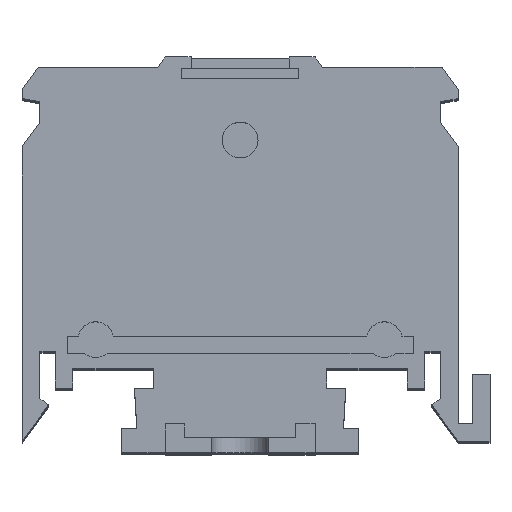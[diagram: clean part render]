
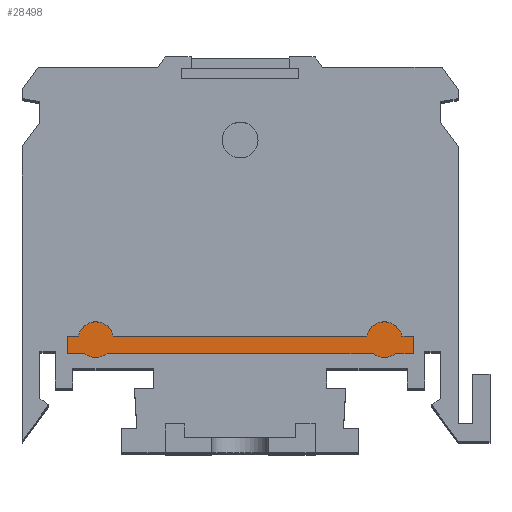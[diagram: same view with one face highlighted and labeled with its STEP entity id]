
A CAD part, top view. The second image highlights one B-rep face of the part: STEP entity #28498.
In plain terms, the highlighted planar face has unit normal (0, 0, 1).
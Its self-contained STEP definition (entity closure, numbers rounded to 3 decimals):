
#4183 = AXIS2_PLACEMENT_3D ( 'NONE', #12345, #12350, #12351 ) ;
#6420 = VERTEX_POINT ( 'NONE', #8831 ) ;
#6449 = VERTEX_POINT ( 'NONE', #8860 ) ;
#6465 = VERTEX_POINT ( 'NONE', #8876 ) ;
#6482 = VERTEX_POINT ( 'NONE', #8893 ) ;
#6489 = VERTEX_POINT ( 'NONE', #8900 ) ;
#6529 = VERTEX_POINT ( 'NONE', #8940 ) ;
#6590 = VERTEX_POINT ( 'NONE', #9002 ) ;
#6605 = VERTEX_POINT ( 'NONE', #9017 ) ;
#6661 = VERTEX_POINT ( 'NONE', #9073 ) ;
#6676 = VERTEX_POINT ( 'NONE', #9089 ) ;
#6702 = VERTEX_POINT ( 'NONE', #9115 ) ;
#6732 = VERTEX_POINT ( 'NONE', #9145 ) ;
#8831 = CARTESIAN_POINT ( 'NONE',  ( -15., 8.6, -1.5 ) ) ;
#8860 = CARTESIAN_POINT ( 'NONE',  ( -11.519, 8.6, -1.5 ) ) ;
#8876 = CARTESIAN_POINT ( 'NONE',  ( 11.519, 8.6, -1.5 ) ) ;
#8893 = CARTESIAN_POINT ( 'NONE',  ( -10.979, 10.1, -1.5 ) ) ;
#8900 = CARTESIAN_POINT ( 'NONE',  ( -13.481, 8.6, -1.5 ) ) ;
#8940 = CARTESIAN_POINT ( 'NONE',  ( 15., 10.1, -1.5 ) ) ;
#9002 = CARTESIAN_POINT ( 'NONE',  ( -14.021, 10.1, -1.5 ) ) ;
#9017 = CARTESIAN_POINT ( 'NONE',  ( -15., 10.1, -1.5 ) ) ;
#9073 = CARTESIAN_POINT ( 'NONE',  ( 14.021, 10.1, -1.5 ) ) ;
#9089 = CARTESIAN_POINT ( 'NONE',  ( 15., 8.6, -1.5 ) ) ;
#9115 = CARTESIAN_POINT ( 'NONE',  ( 13.481, 8.6, -1.5 ) ) ;
#9145 = CARTESIAN_POINT ( 'NONE',  ( 10.979, 10.1, -1.5 ) ) ;
#11168 = FACE_OUTER_BOUND ( 'NONE', #66729, .T. ) ;
#12345 = CARTESIAN_POINT ( 'NONE',  ( -12.5, 9.8, -1.5 ) ) ;
#12347 = PLANE ( 'NONE',  #4183 ) ;
#12350 = DIRECTION ( 'NONE',  ( 0., 0., 1. ) ) ;
#12351 = DIRECTION ( 'NONE',  ( 1., 0., 0. ) ) ;
#28498 = ADVANCED_FACE ( 'NONE', ( #11168 ), #12347, .T. ) ;
#38326 = AXIS2_PLACEMENT_3D ( 'NONE', #61127, #61160, #61161 ) ;
#38328 = AXIS2_PLACEMENT_3D ( 'NONE', #61139, #61150, #61151 ) ;
#38373 = AXIS2_PLACEMENT_3D ( 'NONE', #61991, #61994, #61995 ) ;
#38380 = AXIS2_PLACEMENT_3D ( 'NONE', #62006, #62028, #62029 ) ;
#51525 = ORIENTED_EDGE ( 'NONE', *, *, #65234, .T. ) ;
#51543 = ORIENTED_EDGE ( 'NONE', *, *, #65238, .T. ) ;
#51568 = ORIENTED_EDGE ( 'NONE', *, *, #65237, .T. ) ;
#51585 = ORIENTED_EDGE ( 'NONE', *, *, #65241, .T. ) ;
#51605 = ORIENTED_EDGE ( 'NONE', *, *, #65239, .T. ) ;
#51607 = ORIENTED_EDGE ( 'NONE', *, *, #65242, .T. ) ;
#51615 = ORIENTED_EDGE ( 'NONE', *, *, #65240, .T. ) ;
#51624 = ORIENTED_EDGE ( 'NONE', *, *, #65236, .T. ) ;
#51646 = ORIENTED_EDGE ( 'NONE', *, *, #65561, .T. ) ;
#51650 = ORIENTED_EDGE ( 'NONE', *, *, #65227, .T. ) ;
#51674 = ORIENTED_EDGE ( 'NONE', *, *, #65575, .T. ) ;
#51676 = ORIENTED_EDGE ( 'NONE', *, *, #65235, .T. ) ;
#57404 = LINE ( 'NONE', #61162, #57453 ) ;
#57418 = LINE ( 'NONE', #61134, #57420 ) ;
#57420 = VECTOR ( 'NONE', #61135, 1000. ) ;
#57422 = LINE ( 'NONE', #61152, #57424 ) ;
#57424 = VECTOR ( 'NONE', #61153, 1000. ) ;
#57453 = VECTOR ( 'NONE', #61163, 1000. ) ;
#57455 = CIRCLE ( 'NONE', #38328, 1.55 ) ;
#57457 = LINE ( 'NONE', #61154, #62265 ) ;
#61127 = CARTESIAN_POINT ( 'NONE',  ( 12.5, 9.8, -1.5 ) ) ;
#61134 = CARTESIAN_POINT ( 'NONE',  ( -15., 8.6, -1.5 ) ) ;
#61135 = DIRECTION ( 'NONE',  ( 1., 0., 0. ) ) ;
#61139 = CARTESIAN_POINT ( 'NONE',  ( -12.5, 9.8, -1.5 ) ) ;
#61150 = DIRECTION ( 'NONE',  ( 0., 0., 1. ) ) ;
#61151 = DIRECTION ( 'NONE',  ( 1., 0., 0. ) ) ;
#61152 = CARTESIAN_POINT ( 'NONE',  ( -15., 10.1, -1.5 ) ) ;
#61153 = DIRECTION ( 'NONE',  ( -1., 0., 0. ) ) ;
#61154 = CARTESIAN_POINT ( 'NONE',  ( -15., 10.1, -1.5 ) ) ;
#61155 = DIRECTION ( 'NONE',  ( 0., -1., 0. ) ) ;
#61156 = CARTESIAN_POINT ( 'NONE',  ( -15., 8.6, -1.5 ) ) ;
#61157 = DIRECTION ( 'NONE',  ( 1., 0., 0. ) ) ;
#61158 = CARTESIAN_POINT ( 'NONE',  ( -15., 8.6, -1.5 ) ) ;
#61159 = DIRECTION ( 'NONE',  ( 1., 0., 0. ) ) ;
#61160 = DIRECTION ( 'NONE',  ( 0., 0., 1. ) ) ;
#61161 = DIRECTION ( 'NONE',  ( 1., 0., 0. ) ) ;
#61162 = CARTESIAN_POINT ( 'NONE',  ( -15., 10.1, -1.5 ) ) ;
#61163 = DIRECTION ( 'NONE',  ( -1., 0., 0. ) ) ;
#61164 = CARTESIAN_POINT ( 'NONE',  ( 15., 10.1, -1.5 ) ) ;
#61165 = DIRECTION ( 'NONE',  ( 0., 1., 0. ) ) ;
#61166 = CARTESIAN_POINT ( 'NONE',  ( -15., 10.1, -1.5 ) ) ;
#61167 = DIRECTION ( 'NONE',  ( -1., 0., 0. ) ) ;
#61991 = CARTESIAN_POINT ( 'NONE',  ( 12.5, 9.8, -1.5 ) ) ;
#61994 = DIRECTION ( 'NONE',  ( 0., 0., 1. ) ) ;
#61995 = DIRECTION ( 'NONE',  ( 1., 0., 0. ) ) ;
#62006 = CARTESIAN_POINT ( 'NONE',  ( -12.5, 9.8, -1.5 ) ) ;
#62028 = DIRECTION ( 'NONE',  ( 0., 0., 1. ) ) ;
#62029 = DIRECTION ( 'NONE',  ( 1., 0., 0. ) ) ;
#62265 = VECTOR ( 'NONE', #61155, 1000. ) ;
#62267 = LINE ( 'NONE', #61156, #62269 ) ;
#62269 = VECTOR ( 'NONE', #61157, 1000. ) ;
#62271 = LINE ( 'NONE', #61158, #62273 ) ;
#62273 = VECTOR ( 'NONE', #61159, 1000. ) ;
#62280 = CIRCLE ( 'NONE', #38326, 1.55 ) ;
#62282 = LINE ( 'NONE', #61164, #62284 ) ;
#62284 = VECTOR ( 'NONE', #61165, 1000. ) ;
#62286 = LINE ( 'NONE', #61166, #62288 ) ;
#62288 = VECTOR ( 'NONE', #61167, 1000. ) ;
#63378 = CIRCLE ( 'NONE', #38373, 1.55 ) ;
#63427 = CIRCLE ( 'NONE', #38380, 1.55 ) ;
#65227 = EDGE_CURVE ( 'NONE', #6702, #6676, #57418, .T. ) ;
#65234 = EDGE_CURVE ( 'NONE', #6482, #6590, #57455, .T. ) ;
#65235 = EDGE_CURVE ( 'NONE', #6590, #6605, #57422, .T. ) ;
#65236 = EDGE_CURVE ( 'NONE', #6605, #6420, #57457, .T. ) ;
#65237 = EDGE_CURVE ( 'NONE', #6420, #6489, #62267, .T. ) ;
#65238 = EDGE_CURVE ( 'NONE', #6449, #6465, #62271, .T. ) ;
#65239 = EDGE_CURVE ( 'NONE', #6661, #6732, #62280, .T. ) ;
#65240 = EDGE_CURVE ( 'NONE', #6529, #6661, #57404, .T. ) ;
#65241 = EDGE_CURVE ( 'NONE', #6676, #6529, #62282, .T. ) ;
#65242 = EDGE_CURVE ( 'NONE', #6732, #6482, #62286, .T. ) ;
#65561 = EDGE_CURVE ( 'NONE', #6465, #6702, #63378, .T. ) ;
#65575 = EDGE_CURVE ( 'NONE', #6489, #6449, #63427, .T. ) ;
#66729 = EDGE_LOOP ( 'NONE', ( #51525, #51676, #51624, #51568, #51674, #51543, #51646, #51650, #51585, #51615, #51605, #51607 ) ) ;
